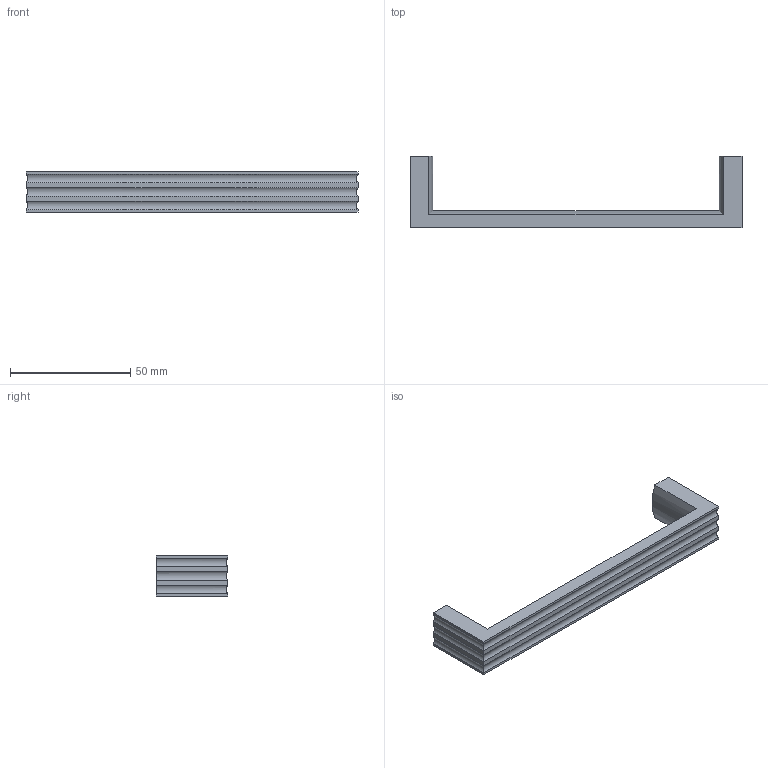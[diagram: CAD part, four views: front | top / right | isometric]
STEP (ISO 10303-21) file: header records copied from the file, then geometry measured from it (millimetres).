
FILE_DESCRIPTION( ( 'STEP AP214' ), '1' );
FILE_NAME( 'C:/Users/swati/Swati/Swati/modification/9207452/9208030.stp', ' ', ( ' ' ), ( ' ' ), 'PSStep 15.0.47', 'PARTsolutions', ' ' );
FILE_SCHEMA( ( 'AUTOMOTIVE_DESIGN { 1 0 10303 214 1 1 1 1 }' ) );
Length unit declared in the file: millimetre
Products named in the file (2): 95 ; _
Assembly tree (1 placements, depth 2):
  95 
    _
Bounding box: 138.3 x 29.8 x 16.7 mm (x, y, z)
Volume: 20844.4 mm3; surface area: 9091.8 mm2
Topology: 1 solids, 1 shells, 32 faces, 72 edges, 44 vertices
Faces by surface type: plane 18, cylinder 14
Full cylindrical faces by diameter (mm): 4 x2
Entity records: 1192 total; most frequent: CARTESIAN_POINT 182, DIRECTION 154, ORIENTED_EDGE 140, EDGE_CURVE 70, AXIS2_PLACEMENT_3D 52, LINE 50, VECTOR 50, VERTEX_POINT 44
